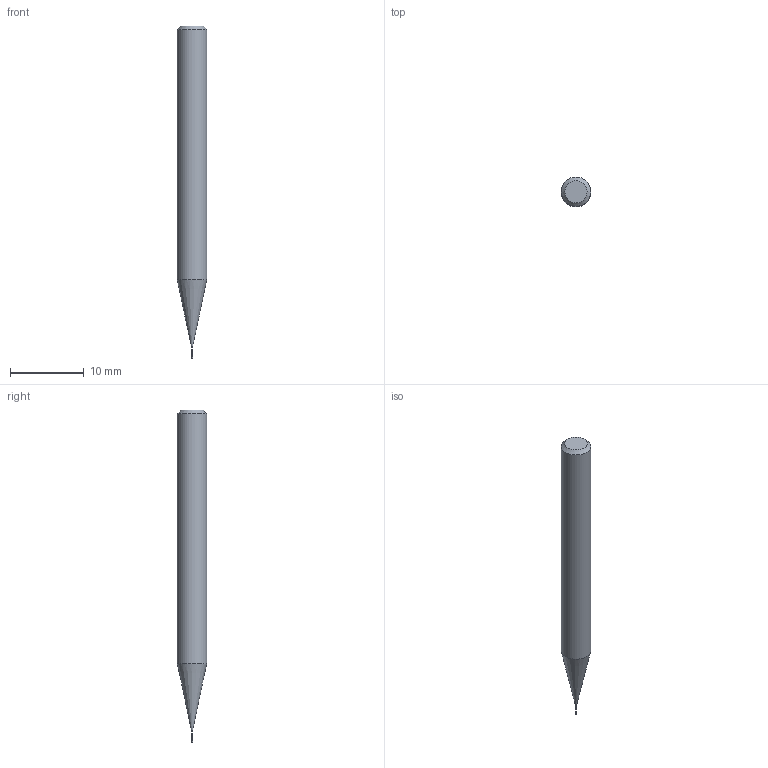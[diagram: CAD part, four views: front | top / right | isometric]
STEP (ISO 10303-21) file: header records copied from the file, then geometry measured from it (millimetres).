
FILE_DESCRIPTION((''),'2;1');
FILE_NAME('C:\Users\nsx150\AppData\Local\Temp\Mastercam 2021\17T8Q8S9EB\TEMP.step','2021-04-21T14:23:22',(''),(''),'STEP Write','Mastercam 2021 ... CNC Software, Inc.','');
FILE_SCHEMA(('AUTOMOTIVE_DESIGN'));
Length unit declared in the file: millimetre
Products named in the file (1): None
Bounding box: 4 x 4 x 45 mm (x, y, z)
Volume: 470.2 mm3; surface area: 501.9 mm2
Topology: 2 solids, 2 shells, 9 faces, 12 edges, 7 vertices
Faces by surface type: plane 4, cylinder 3, cone 2
Full cylindrical faces by diameter (mm): 0.13 x1, 0.15 x1, 4 x1
Entity records: 211 total; most frequent: DIRECTION 36, CARTESIAN_POINT 25, AXIS2_PLACEMENT_3D 18, ORIENTED_EDGE 14, EDGE_LOOP 14, STYLED_ITEM 12, ADVANCED_FACE 9, FACE_BOUND 8
